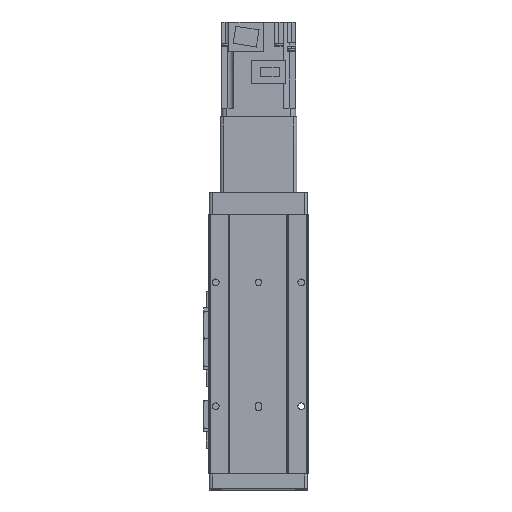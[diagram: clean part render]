
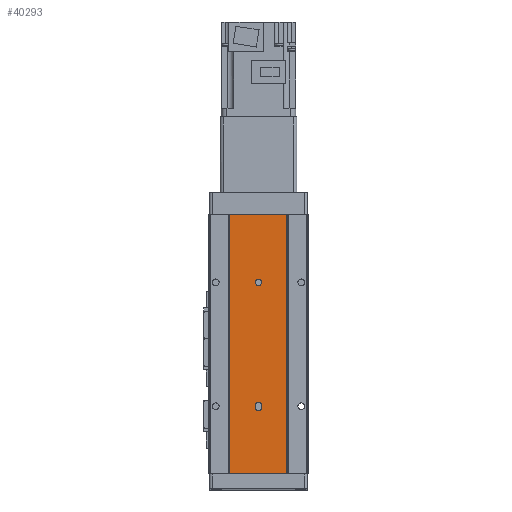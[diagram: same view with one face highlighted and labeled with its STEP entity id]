
A CAD part, front view. The second image highlights one B-rep face of the part: STEP entity #40293.
In plain terms, the highlighted planar face has unit normal (0, -1, 0).
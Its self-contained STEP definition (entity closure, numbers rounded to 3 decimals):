
#911 = CARTESIAN_POINT ( 'NONE',  ( 2.5, 0.5, -209. ) ) ;
#927 = DIRECTION ( 'NONE',  ( 0., 0., 1. ) ) ;
#996 = CARTESIAN_POINT ( 'NONE',  ( 0., 0.5, -155.5 ) ) ;
#1019 = DIRECTION ( 'NONE',  ( 0., -1., 0. ) ) ;
#1027 = DIRECTION ( 'NONE',  ( 1., 0., 0. ) ) ;
#1073 = DIRECTION ( 'NONE',  ( 0., 0., 1. ) ) ;
#1075 = CARTESIAN_POINT ( 'NONE',  ( 23., 0.5, -209. ) ) ;
#1076 = DIRECTION ( 'NONE',  ( 0., 0., 1. ) ) ;
#1080 = DIRECTION ( 'NONE',  ( 0., 0., -1. ) ) ;
#1085 = CARTESIAN_POINT ( 'NONE',  ( -23., 0.5, -209. ) ) ;
#1094 = DIRECTION ( 'NONE',  ( 1., 0., 0. ) ) ;
#1104 = DIRECTION ( 'NONE',  ( 0., -1., 0. ) ) ;
#1108 = CARTESIAN_POINT ( 'NONE',  ( 0., 0.5, -153.5 ) ) ;
#1112 = CARTESIAN_POINT ( 'NONE',  ( -2.5, 0.5, -209. ) ) ;
#1186 = DIRECTION ( 'NONE',  ( 1., 0., 0. ) ) ;
#1187 = DIRECTION ( 'NONE',  ( 0., -1., 0. ) ) ;
#1189 = CARTESIAN_POINT ( 'NONE',  ( 0., 0.5, -54.5 ) ) ;
#1362 = LINE ( 'NONE', #911, #1400 ) ;
#1400 = VECTOR ( 'NONE', #927, 1000. ) ;
#1446 = CIRCLE ( 'NONE', #19375, 2.5 ) ;
#1466 = VECTOR ( 'NONE', #1073, 1000. ) ;
#1473 = CIRCLE ( 'NONE', #19421, 2.5 ) ;
#1489 = LINE ( 'NONE', #1075, #1490 ) ;
#1490 = VECTOR ( 'NONE', #1076, 1000. ) ;
#1495 = LINE ( 'NONE', #1112, #1523 ) ;
#1523 = VECTOR ( 'NONE', #1080, 1000. ) ;
#1527 = LINE ( 'NONE', #1085, #1466 ) ;
#1574 = CIRCLE ( 'NONE', #19214, 2.5 ) ;
#2744 = ORIENTED_EDGE ( 'NONE', *, *, #29803, .F. ) ;
#2751 = ORIENTED_EDGE ( 'NONE', *, *, #29878, .F. ) ;
#2753 = ORIENTED_EDGE ( 'NONE', *, *, #28310, .F. ) ;
#2764 = ORIENTED_EDGE ( 'NONE', *, *, #28748, .F. ) ;
#2778 = ORIENTED_EDGE ( 'NONE', *, *, #29899, .T. ) ;
#2802 = ORIENTED_EDGE ( 'NONE', *, *, #29954, .F. ) ;
#2819 = ORIENTED_EDGE ( 'NONE', *, *, #28773, .T. ) ;
#2829 = ORIENTED_EDGE ( 'NONE', *, *, #29873, .F. ) ;
#2834 = ORIENTED_EDGE ( 'NONE', *, *, #28500, .F. ) ;
#2839 = ORIENTED_EDGE ( 'NONE', *, *, #29724, .F. ) ;
#2854 = ORIENTED_EDGE ( 'NONE', *, *, #29892, .F. ) ;
#17542 = AXIS2_PLACEMENT_3D ( 'NONE', #40819, #40786, #40777 ) ;
#17600 = AXIS2_PLACEMENT_3D ( 'NONE', #41779, #41785, #41793 ) ;
#19214 = AXIS2_PLACEMENT_3D ( 'NONE', #1189, #1187, #1186 ) ;
#19375 = AXIS2_PLACEMENT_3D ( 'NONE', #996, #1019, #1027 ) ;
#19421 = AXIS2_PLACEMENT_3D ( 'NONE', #1108, #1104, #1094 ) ;
#20742 = AXIS2_PLACEMENT_3D ( 'NONE', #26611, #26609, #26573 ) ;
#22683 = FACE_BOUND ( 'NONE', #32081, .T. ) ;
#22690 = FACE_OUTER_BOUND ( 'NONE', #32090, .T. ) ;
#22697 = FACE_BOUND ( 'NONE', #32112, .T. ) ;
#25258 = CIRCLE ( 'NONE', #17542, 2.5 ) ;
#25433 = CIRCLE ( 'NONE', #17600, 2.5 ) ;
#25678 = LINE ( 'NONE', #43307, #25702 ) ;
#25702 = VECTOR ( 'NONE', #43343, 1000. ) ;
#25783 = LINE ( 'NONE', #43372, #25798 ) ;
#25798 = VECTOR ( 'NONE', #43379, 1000. ) ;
#26573 = DIRECTION ( 'NONE',  ( 1., 0., 0. ) ) ;
#26608 = PLANE ( 'NONE',  #20742 ) ;
#26609 = DIRECTION ( 'NONE',  ( 0., -1., 0. ) ) ;
#26611 = CARTESIAN_POINT ( 'NONE',  ( -23., 0.5, -209. ) ) ;
#28310 = EDGE_CURVE ( 'NONE', #39090, #39079, #25258, .T. ) ;
#28500 = EDGE_CURVE ( 'NONE', #39184, #39142, #25433, .T. ) ;
#28748 = EDGE_CURVE ( 'NONE', #39380, #39334, #25678, .T. ) ;
#28773 = EDGE_CURVE ( 'NONE', #39345, #39343, #25783, .T. ) ;
#29724 = EDGE_CURVE ( 'NONE', #39142, #36530, #1362, .T. ) ;
#29803 = EDGE_CURVE ( 'NONE', #36534, #39184, #1446, .T. ) ;
#29873 = EDGE_CURVE ( 'NONE', #36422, #36534, #1495, .T. ) ;
#29878 = EDGE_CURVE ( 'NONE', #36530, #36422, #1473, .T. ) ;
#29892 = EDGE_CURVE ( 'NONE', #39345, #39380, #1527, .T. ) ;
#29899 = EDGE_CURVE ( 'NONE', #39343, #39334, #1489, .T. ) ;
#29954 = EDGE_CURVE ( 'NONE', #39079, #39090, #1574, .T. ) ;
#32081 = EDGE_LOOP ( 'NONE', ( #2744, #2829, #2751, #2839, #2834 ) ) ;
#32090 = EDGE_LOOP ( 'NONE', ( #2764, #2854, #2819, #2778 ) ) ;
#32112 = EDGE_LOOP ( 'NONE', ( #2802, #2753 ) ) ;
#34724 = CARTESIAN_POINT ( 'NONE',  ( -2.5, 0.5, -153.5 ) ) ;
#34773 = CARTESIAN_POINT ( 'NONE',  ( -2.5, 0.5, -155.5 ) ) ;
#34791 = CARTESIAN_POINT ( 'NONE',  ( 2.5, 0.5, -153.5 ) ) ;
#35518 = CARTESIAN_POINT ( 'NONE',  ( -2.5, 0.5, -54.5 ) ) ;
#35530 = CARTESIAN_POINT ( 'NONE',  ( 2.5, 0.5, -54.5 ) ) ;
#35576 = CARTESIAN_POINT ( 'NONE',  ( 2.5, 0.5, -155.5 ) ) ;
#35640 = CARTESIAN_POINT ( 'NONE',  ( 0., 0.5, -158. ) ) ;
#35776 = CARTESIAN_POINT ( 'NONE',  ( -23., 0.5, -209. ) ) ;
#35841 = CARTESIAN_POINT ( 'NONE',  ( 23., 0.5, -209. ) ) ;
#35845 = CARTESIAN_POINT ( 'NONE',  ( 23., 0.5, 0. ) ) ;
#35915 = CARTESIAN_POINT ( 'NONE',  ( -23., 0.5, 0. ) ) ;
#36422 = VERTEX_POINT ( 'NONE', #34724 ) ;
#36530 = VERTEX_POINT ( 'NONE', #34791 ) ;
#36534 = VERTEX_POINT ( 'NONE', #34773 ) ;
#39079 = VERTEX_POINT ( 'NONE', #35530 ) ;
#39090 = VERTEX_POINT ( 'NONE', #35518 ) ;
#39142 = VERTEX_POINT ( 'NONE', #35576 ) ;
#39184 = VERTEX_POINT ( 'NONE', #35640 ) ;
#39334 = VERTEX_POINT ( 'NONE', #35845 ) ;
#39343 = VERTEX_POINT ( 'NONE', #35841 ) ;
#39345 = VERTEX_POINT ( 'NONE', #35776 ) ;
#39380 = VERTEX_POINT ( 'NONE', #35915 ) ;
#40293 = ADVANCED_FACE ( 'NONE', ( #22697, #22683, #22690 ), #26608, .T. ) ;
#40777 = DIRECTION ( 'NONE',  ( 1., 0., 0. ) ) ;
#40786 = DIRECTION ( 'NONE',  ( 0., -1., 0. ) ) ;
#40819 = CARTESIAN_POINT ( 'NONE',  ( 0., 0.5, -54.5 ) ) ;
#41779 = CARTESIAN_POINT ( 'NONE',  ( 0., 0.5, -155.5 ) ) ;
#41785 = DIRECTION ( 'NONE',  ( 0., -1., 0. ) ) ;
#41793 = DIRECTION ( 'NONE',  ( 1., 0., 0. ) ) ;
#43307 = CARTESIAN_POINT ( 'NONE',  ( -23., 0.5, 0. ) ) ;
#43343 = DIRECTION ( 'NONE',  ( 1., 0., 0. ) ) ;
#43372 = CARTESIAN_POINT ( 'NONE',  ( -23., 0.5, -209. ) ) ;
#43379 = DIRECTION ( 'NONE',  ( 1., 0., 0. ) ) ;
